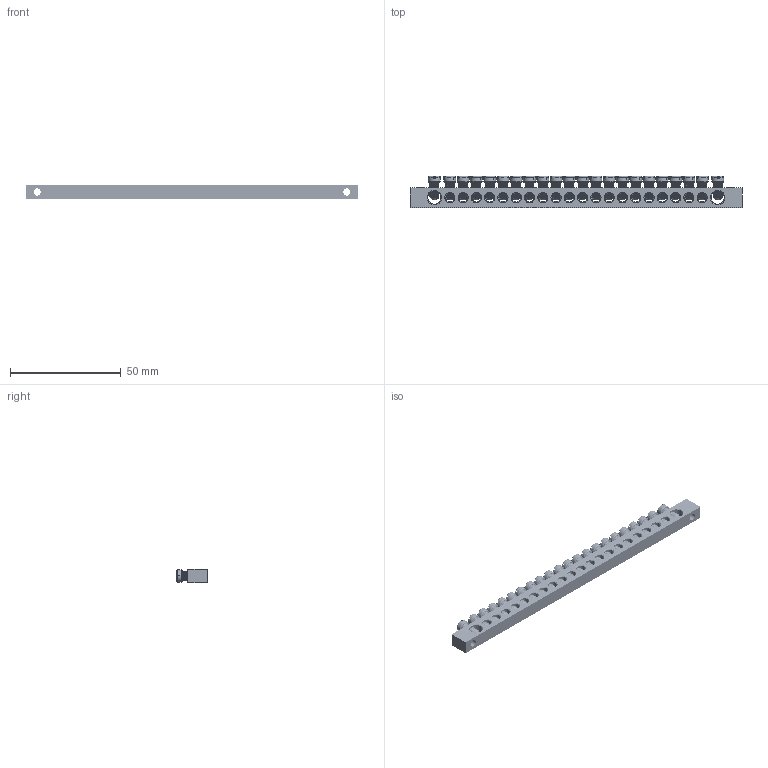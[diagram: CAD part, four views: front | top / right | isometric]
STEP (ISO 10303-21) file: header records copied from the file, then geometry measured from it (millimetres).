
FILE_DESCRIPTION (( 'STEP AP214' ), '1' );
FILE_NAME ('277994 OptiKit BB-PEN-S-22-6õ9-2.STEP', '2020-02-07T06:39:51', ( '' ), ( '' ), 'SwSTEP 2.0', 'SolidWorks 2018', '' );
FILE_SCHEMA (( 'AUTOMOTIVE_DESIGN' ));
Length unit declared in the file: millimetre
Products named in the file (3): Âèíò ì4; Øèíà 6õ9 22 2; 277994 OptiKit BB-PEN-S-22-6õ9-2
Assembly tree (23 placements, depth 2):
  277994 OptiKit BB-PEN-S-22-6õ9-2
    Øèíà 6õ9 22 2
    Âèíò ì4  x22
Bounding box: 150 x 14.1 x 6 mm (x, y, z)
Volume: 8616.1 mm3; surface area: 10999.8 mm2
Topology: 23 solids, 23 shells, 1726 faces, 4798 edges, 3096 vertices
Faces by surface type: plane 600, cylinder 598, cone 286, torus 154, bspline 88
Entity records: 11755 total; most frequent: CARTESIAN_POINT 4678, DIRECTION 1350, ORIENTED_EDGE 1318, EDGE_CURVE 659, AXIS2_PLACEMENT_3D 543, VERTEX_POINT 408, EDGE_LOOP 349, CIRCLE 265
